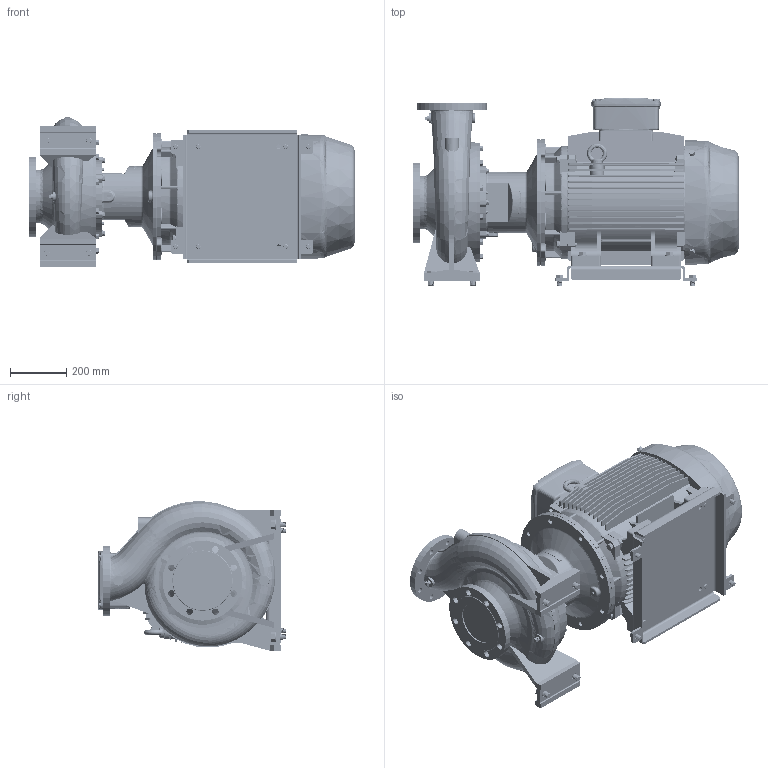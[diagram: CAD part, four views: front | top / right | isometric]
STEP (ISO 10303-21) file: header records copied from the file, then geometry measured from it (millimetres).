
FILE_DESCRIPTION (( 'STEP AP214' ), '1' );
FILE_NAME ('GSD4 125-315_37_(225SM)_W21.STEP', '2026-07-01T04:14:22', ( '' ), ( '' ), 'SwSTEP 2.0', 'SolidWorks 2024', '' );
FILE_SCHEMA (( 'AUTOMOTIVE_DESIGN' ));
Length unit declared in the file: millimetre
Products named in the file (12): Parametric Flat Washer_M20; Parametric Flat Washer_M16; 125-315-225S_M_ﾃﾞﾌｫﾙﾄ; Parametric bolt and washer_SFT-A351B; Parametric bolt and washer_SFT-A403B; Parametric bolt_SFT-A359B; GSD4 125-315_37_(225SM)_W21; 225S_M4P IE3_W21T_B35; CGS11-5282; Parametric bolt_SFT-A403B; Parametric bolt_SFT-A351B; Parametric bolt and washer_SFT-A359B
Assembly tree (21 placements, depth 3):
  GSD4 125-315_37_(225SM)_W21
    125-315-225S_M_ﾃﾞﾌｫﾙﾄ
    225S_M4P IE3_W21T_B35
    CGS11-5282
    Parametric bolt and washer_SFT-A403B  x4
      Parametric bolt_SFT-A403B
      Parametric Flat Washer_M20
    Parametric bolt and washer_SFT-A351B  x4
      Parametric bolt_SFT-A351B
      Parametric Flat Washer_M16
    Parametric bolt and washer_SFT-A359B  x4
      Parametric bolt_SFT-A359B
      Parametric Flat Washer_M16
Bounding box: 1164.5 x 671 x 532.93 mm (x, y, z)
Volume: 145508275.2 mm3; surface area: 5198149 mm2
Topology: 34 solids, 39 shells, 4243 faces, 11169 edges, 7130 vertices
Faces by surface type: plane 1743, cylinder 1459, cone 492, bspline 297, torus 234, sphere 18
Entity records: 170348 total; most frequent: CARTESIAN_POINT 83683, ORIENTED_EDGE 19016, DIRECTION 17117, EDGE_CURVE 9508, AXIS2_PLACEMENT_3D 6208, VERTEX_POINT 6059, LINE 4701, VECTOR 4701
